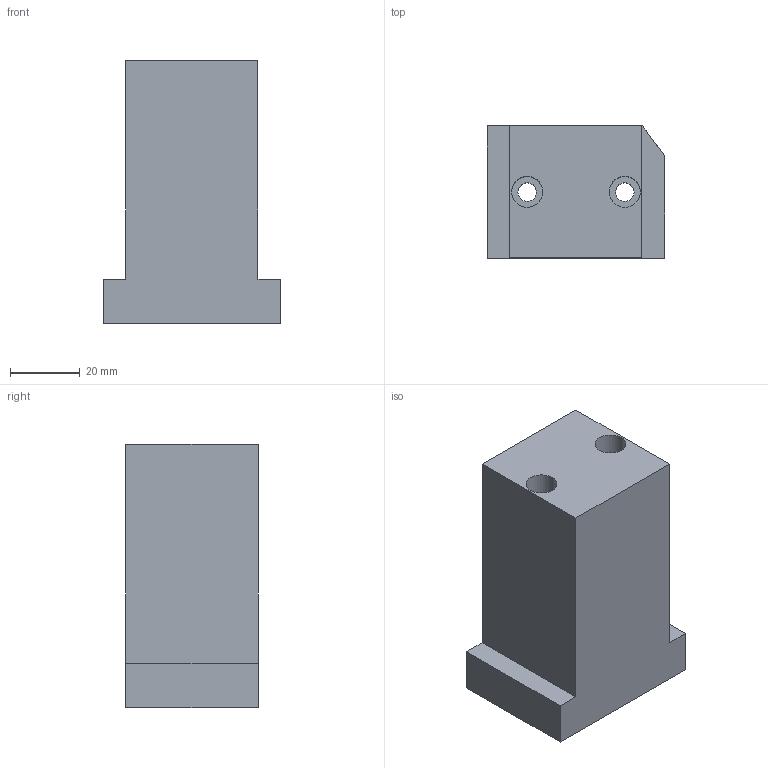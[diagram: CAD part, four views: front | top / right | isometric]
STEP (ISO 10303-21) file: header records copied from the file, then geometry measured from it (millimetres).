
FILE_DESCRIPTION (( 'STEP AP203' ), '1' );
FILE_NAME ('269-18-103.STEP', '2020-03-02T21:41:00', ( '' ), ( '' ), 'SwSTEP 2.0', 'SolidWorks 2017', '' );
FILE_SCHEMA (( 'CONFIG_CONTROL_DESIGN' ));
Length unit declared in the file: inch
Products named in the file (1): 269-18-103
Bounding box: 50.8 x 37.97 x 75.44 mm (x, y, z)
Volume: 101517.8 mm3; surface area: 20831.6 mm2
Topology: 1 solids, 1 shells, 47 faces, 120 edges, 78 vertices
Faces by surface type: plane 21, cylinder 20, cone 6
Entity records: 1699 total; most frequent: CARTESIAN_POINT 448, DIRECTION 246, ORIENTED_EDGE 240, EDGE_CURVE 120, AXIS2_PLACEMENT_3D 90, VERTEX_POINT 78, VECTOR 66, LINE 66
